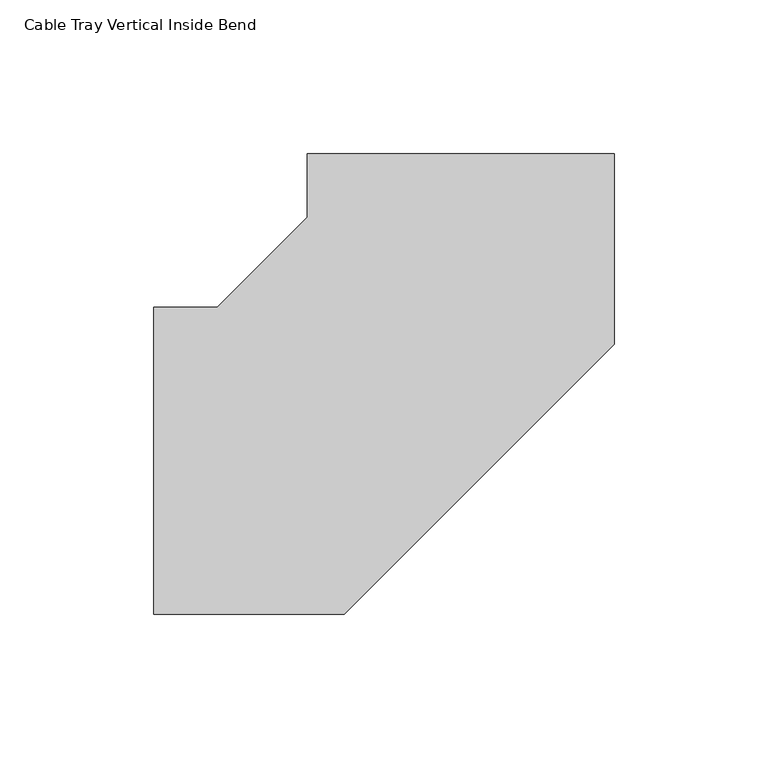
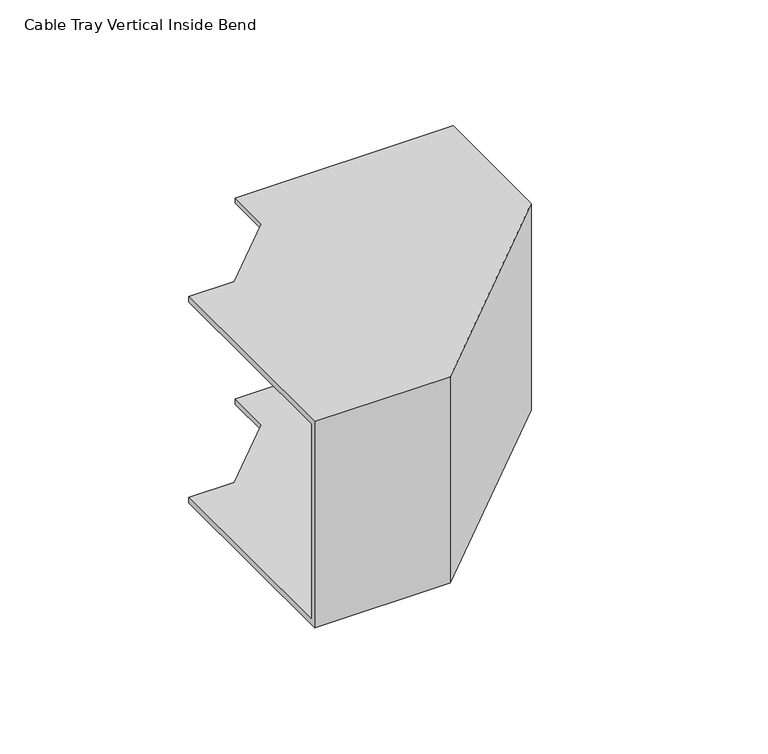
"""IFC4 building model written with IfcOpenShell, lengths in millimetres: cable carrier fitting geometry, Cable Tray Vertical Inside Bend : ELEC_ELV_TKG_N2402."""

from ifc_helpers import new_model, si_unit, origin, place, context, project, spatial, faceted_brep, source, transform, mapped, element, save


def cable_tray_vertical_inside_bend_1c1c6de5(model_context):
    return source(origin(), model_context, "Body", "Brep", [
        faceted_brep([(-99.9996162, 50.0, 50.0), (-99.9996162, 50.0, 47.46), (-99.9996162, -47.46, 47.46), (-99.9996162, -47.46, -47.46), (-99.9996162, 50.0, -47.46), (-99.9996162, 50.0, -50.0), (-99.9996162, -50.0, -50.0), (-99.9996162, -50.0, 50.0), (-49.9996162, 99.9998081, 50.0), (50.0003838, 99.9994243, 50.0), (50.0003838, 99.9994243, -50.0), (-49.9996162, 99.9998081, -50.0), (-49.9996162, 99.9998081, -47.46), (47.4603838, 99.999434, -47.46), (47.4603838, 99.999434, 47.46), (-49.9996162, 99.9998081, 47.46), (-79.2889943, 50.0, 50.0), (-79.2889943, 50.0, 47.46), (-49.9996957, 79.2891862, 47.46), (47.4601494, 38.9196679, 47.46), (-38.9198501, -47.46, 47.46), (-38.9198501, -47.46, -47.46), (47.4601494, 38.9196679, -47.46), (-49.9996957, 79.2891862, -47.46), (-79.2889943, 50.0, -47.46), (-79.2889943, 50.0, -50.0), (-49.9996957, 79.2891862, -50.0), (50.0001453, 37.8675586, -50.0), (-37.8677505, -50.0, -50.0), (-37.8677505, -50.0, 50.0), (50.0001453, 37.8675586, 50.0), (-49.9996957, 79.2891862, 50.0)], [[[0, 1, 2, 3, 4, 5, 6, 7]], [[8, 9, 10, 11, 12, 13, 14, 15]], [[1, 0, 16, 17]], [[2, 1, 17, 18, 15, 14, 19, 20]], [[3, 2, 20, 21]], [[4, 3, 21, 22, 13, 12, 23, 24]], [[5, 4, 24, 25]], [[6, 5, 25, 26, 11, 10, 27, 28]], [[7, 6, 28, 29]], [[0, 7, 29, 30, 9, 8, 31, 16]], [[17, 16, 31, 18]], [[21, 20, 19, 22]], [[25, 24, 23, 26]], [[29, 28, 27, 30]], [[18, 31, 8, 15]], [[22, 19, 14, 13]], [[26, 23, 12, 11]], [[30, 27, 10, 9]]]),
    ])


if __name__ == "__main__":
    model = new_model("IFC4")
    model_context = context("Model", 3, world=origin())
    ifc_project = project(units=[si_unit("LENGTHUNIT", "METRE", prefix="MILLI")], contexts=[model_context])
    site = spatial("IfcSite", under=ifc_project)
    building = spatial("IfcBuilding", under=site)
    placement = place(None, origin())
    cable_tray_vertical_inside_bend_shape = cable_tray_vertical_inside_bend_1c1c6de5(model_context)
    element("IfcCableCarrierFitting", 1, ObjectType="Cable Tray Vertical Inside Bend : ELEC_ELV_TKG_N2402", at=placement, inside=building, context=model_context, shape_type="MappedRepresentation", body=[
        mapped(cable_tray_vertical_inside_bend_shape, transform((0.0, 0.0, 0.0), x_axis=(1.0, 0.0, 0.0), y_axis=(0.0, 1.0, 0.0), z_axis=(0.0, 0.0, 1.0))),
    ])
    save(model, "model.ifc")
